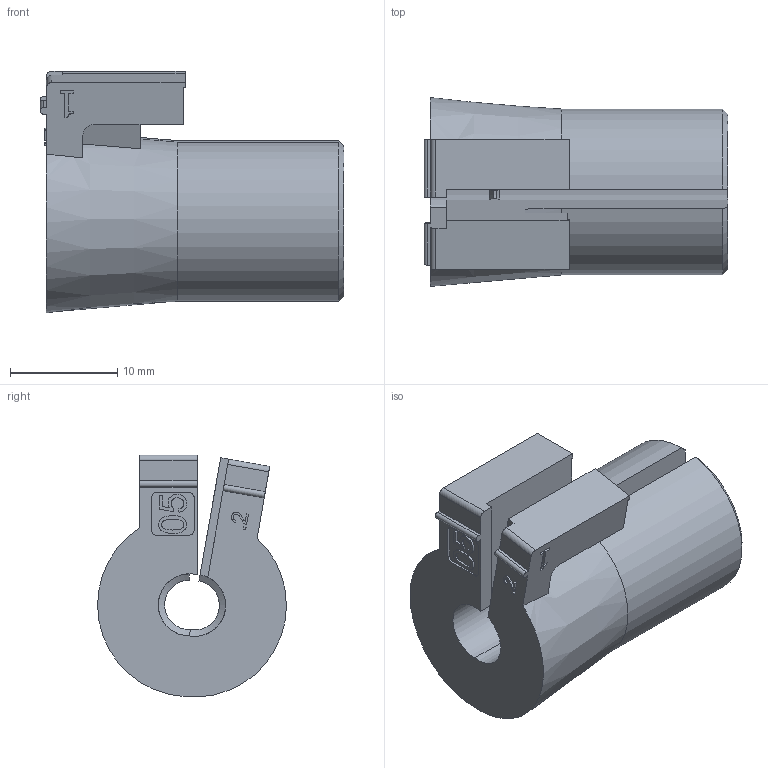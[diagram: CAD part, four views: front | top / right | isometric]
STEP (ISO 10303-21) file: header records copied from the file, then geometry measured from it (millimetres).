
FILE_DESCRIPTION(/* description */ (''),/* implementation_level */ '2;1');
FILE_NAME(/* name */ 'C:\SapWorkDir\Inventor\MP1\ConvertTempPath\87_12_121348_00_A_220530_KDT-X 05.stp',/* time_stamp */ '2022-05-31T09:28:17+02:00',/* author */ ('BAUER'),/* organization */ (''),/* preprocessor_version */ 'ST-DEVELOPER v16.13',/* originating_system */ 'Autodesk Inventor 2018',/* authorisation */ '');
FILE_SCHEMA (('AUTOMOTIVE_DESIGN { 1 0 10303 214 3 1 1 }'));
Length unit declared in the file: millimetre
Products named in the file (1): 121348
Bounding box: 28.4 x 17.64 x 22.6 mm (x, y, z)
Volume: 5053.2 mm3; surface area: 2996.6 mm2
Topology: 1 solids, 1 shells, 128 faces, 351 edges, 232 vertices
Faces by surface type: plane 71, bspline 29, cylinder 20, cone 8
Entity records: 4327 total; most frequent: CARTESIAN_POINT 1096, ORIENTED_EDGE 702, DIRECTION 536, EDGE_CURVE 351, LINE 232, VECTOR 232, VERTEX_POINT 232, AXIS2_PLACEMENT_3D 152
